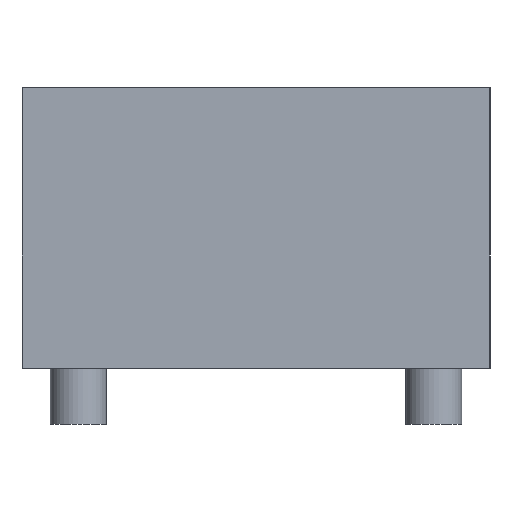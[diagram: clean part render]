
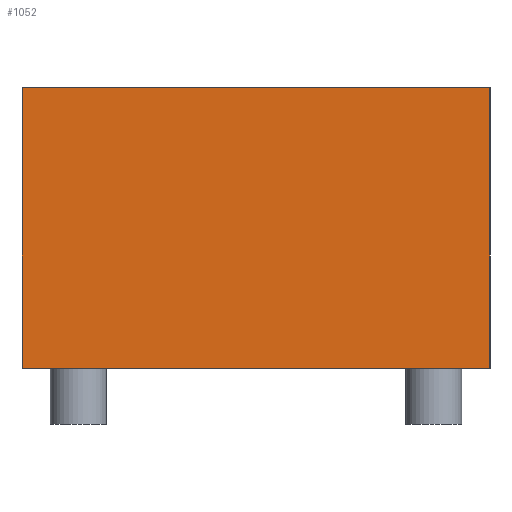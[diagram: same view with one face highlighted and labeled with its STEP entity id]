
A CAD part, left-side view. The second image highlights one B-rep face of the part: STEP entity #1052.
In plain terms, the highlighted planar face has unit normal (-1, 0, 0).
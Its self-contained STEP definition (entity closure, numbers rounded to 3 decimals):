
#675=CARTESIAN_POINT('',(-25.5,-12.5,0.0));
#676=VERTEX_POINT('',#675);
#683=CARTESIAN_POINT('',(-25.5,-12.5,-15.0));
#684=VERTEX_POINT('',#683);
#685=CARTESIAN_POINT('',(-25.5,-12.5,0.0));
#686=DIRECTION('',(0.0,0.0,-1.0));
#687=VECTOR('',#686,15.0);
#688=LINE('',#685,#687);
#689=EDGE_CURVE('',#676,#684,#688,.T.);
#1022=CARTESIAN_POINT('',(-25.5,12.5,0.0));
#1023=DIRECTION('',(-1.0,0.0,0.0));
#1024=DIRECTION('',(0.0,0.0,1.0));
#1025=AXIS2_PLACEMENT_3D('',#1022,#1023,#1024);
#1026=PLANE('',#1025);
#1027=CARTESIAN_POINT('',(-25.5,12.5,-15.0));
#1028=VERTEX_POINT('',#1027);
#1029=CARTESIAN_POINT('',(-25.5,12.5,-15.0));
#1030=DIRECTION('',(0.0,-1.0,0.0));
#1031=VECTOR('',#1030,25.0);
#1032=LINE('',#1029,#1031);
#1033=EDGE_CURVE('',#1028,#684,#1032,.T.);
#1034=ORIENTED_EDGE('',*,*,#1033,.T.);
#1035=ORIENTED_EDGE('',*,*,#689,.F.);
#1036=CARTESIAN_POINT('',(-25.5,12.5,0.0));
#1037=VERTEX_POINT('',#1036);
#1038=CARTESIAN_POINT('',(-25.5,-12.5,0.0));
#1039=DIRECTION('',(0.0,1.0,0.0));
#1040=VECTOR('',#1039,25.0);
#1041=LINE('',#1038,#1040);
#1042=EDGE_CURVE('',#676,#1037,#1041,.T.);
#1043=ORIENTED_EDGE('',*,*,#1042,.T.);
#1044=CARTESIAN_POINT('',(-25.5,12.5,0.0));
#1045=DIRECTION('',(0.0,0.0,-1.0));
#1046=VECTOR('',#1045,15.0);
#1047=LINE('',#1044,#1046);
#1048=EDGE_CURVE('',#1037,#1028,#1047,.T.);
#1049=ORIENTED_EDGE('',*,*,#1048,.T.);
#1050=EDGE_LOOP('',(#1034,#1035,#1043,#1049));
#1051=FACE_OUTER_BOUND('',#1050,.T.);
#1052=ADVANCED_FACE('',(#1051),#1026,.T.);
